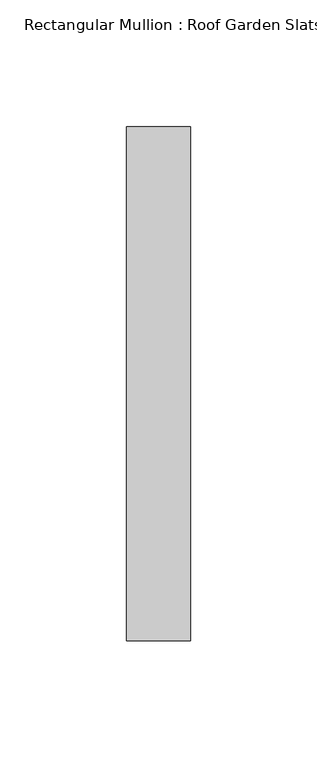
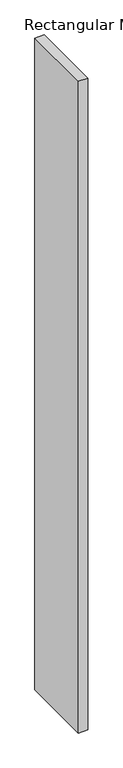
"""IFC4 building model written with IfcOpenShell, lengths in millimetres: member geometry, Rectangular Mullion : Roof Garden Slats."""

from ifc_helpers import new_model, si_unit, frame, origin, place, context, project, spatial, polyline, outline, extrude, source, transform, mapped, element, save


def rectangular_mullion_roof_garden_slats_5532a65f(model_context):
    return source(origin(), model_context, "Body", "SweptSolid", [
        extrude(outline(polyline([(12.7, 139.7), (12.7, -63.5), (-12.7, -63.5), (-12.7, 139.7), (12.7, 139.7)])), frame((0.0, 0.0, -1854.9822777), z_axis=(0.0, 0.0, 1.0), x_axis=(1.0, 0.0, 0.0)), (0.0, 0.0, 1.0), 1854.9822777),
    ])


if __name__ == "__main__":
    model = new_model("IFC4")
    model_context = context("Model", 3, world=origin())
    ifc_project = project(units=[si_unit("LENGTHUNIT", "METRE", prefix="MILLI")], contexts=[model_context])
    site = spatial("IfcSite", under=ifc_project)
    building = spatial("IfcBuilding", under=site)
    placement = place(None, origin())
    rectangular_mullion_roof_garden_slats_shape = rectangular_mullion_roof_garden_slats_5532a65f(model_context)
    element("IfcMember", 1, ObjectType="Rectangular Mullion : Roof Garden Slats", at=placement, inside=building, context=model_context, shape_type="MappedRepresentation", body=[
        mapped(rectangular_mullion_roof_garden_slats_shape, transform((0.0, 0.0, 0.0), x_axis=(1.0, 0.0, 0.0), y_axis=(0.0, 1.0, 0.0), z_axis=(0.0, 0.0, 1.0))),
    ])
    save(model, "model.ifc")
